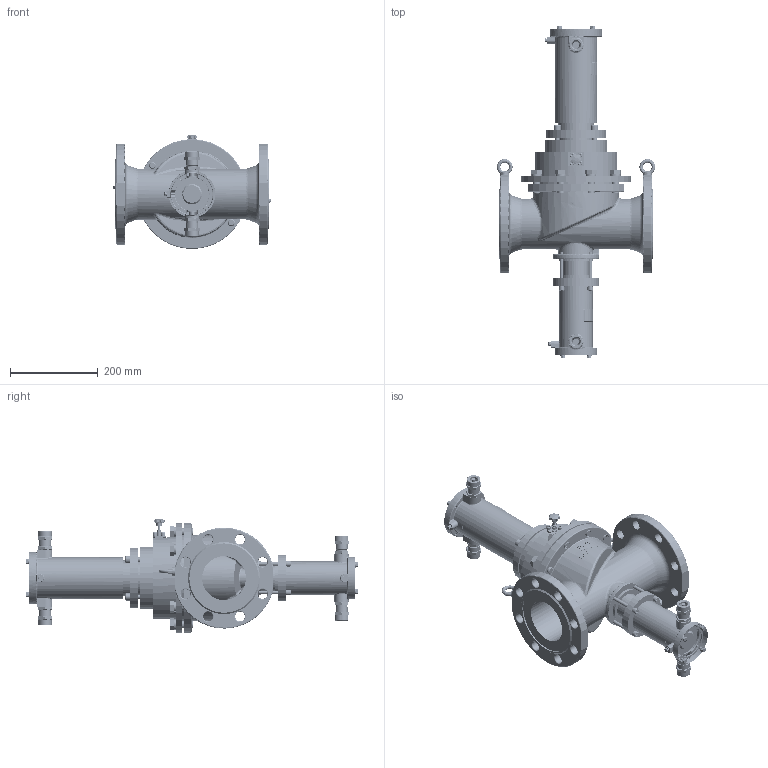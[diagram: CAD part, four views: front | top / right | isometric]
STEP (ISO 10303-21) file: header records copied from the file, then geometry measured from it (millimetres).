
FILE_DESCRIPTION(('STEP AP203'), '1');
FILE_NAME('捇迕-玿 DN100-32PN25.stp', '2019-09-10T10:50:59', ('u'), ($), 'ASCON STEP Converter 1.3', 'Kompas 3D', '');
FILE_SCHEMA(('CONFIG_CONTROL_DESIGN','SUPPORT_RESOURCE_SCHEMA'));
Length unit declared in the file: millimetre
Products named in the file (1): 1
Bounding box: 360.98 x 756.4 x 259.5 mm (x, y, z)
Volume: 6432106.2 mm3; surface area: 1178674.7 mm2
Topology: 5 solids, 51 shells, 4350 faces, 11537 edges, 7488 vertices
Faces by surface type: cylinder 2041, plane 1659, cone 304, extrusion 121, bspline 117, torus 104, sphere 4
Full cylindrical faces by diameter (mm): 3 x2, 3.5 x4, 3.8 x1, 4 x1, 4.134 x4, 4.917 x12, 5 x8, 6 x29, 6.5 x12, 6.647 x4, 8 x24, 8.2 x2, 8.376 x4, 9 x2, 10 x15, 11 x2, 12 x8, 13 x8, 16 x20, 17 x8, 18.632 x4, 20 x4, 22 x20, 22.376 x4, 23.5 x4, 24 x4, 24.5 x4, 26 x8, 26.376 x4, 28 x4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
Entity records: 210540 total; most frequent: CARTESIAN_POINT 101375, DIRECTION 23113, ORIENTED_EDGE 22950, EDGE_CURVE 11475, AXIS2_PLACEMENT_3D 8802, VERTEX_POINT 7488, VECTOR 5509, LINE 5388
